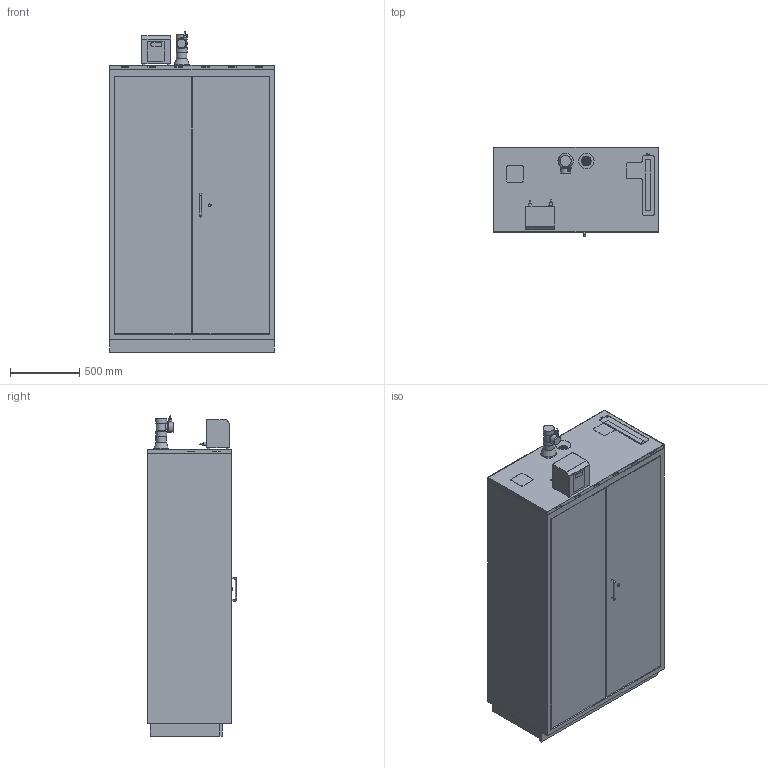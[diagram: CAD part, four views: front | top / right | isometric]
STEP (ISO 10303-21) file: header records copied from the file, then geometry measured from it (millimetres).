
FILE_DESCRIPTION(/* description */ ('Unknown'),/* implementation_level */ '2;1');
FILE_NAME(/* name */ 'TAP CLASSIC XL_D00108794',/* time_stamp */ '2020-11-17T09:29:39+01:00',/* author */ ('Unknown'),/* organization */ ('Unknown'),/* preprocessor_version */ 'ST-DEVELOPER v16.7',/* originating_system */ 'Solid Edge',/* authorisation */ 'Unknown');
FILE_SCHEMA (('AUTOMOTIVE_DESIGN {1 0 10303 214 3 1 1}'));
Length unit declared in the file: millimetre
Products named in the file (1): TAP CLASSIC XL_D00108794
Bounding box: 1194 x 647 x 2317.41 mm (x, y, z)
Volume: 1439227970.8 mm3; surface area: 11844898.9 mm2
Topology: 2 solids, 2 shells, 318 faces, 821 edges, 536 vertices
Faces by surface type: plane 218, cylinder 81, sphere 8, torus 4, cone 4, bspline 3
Full cylindrical faces by diameter (mm): 6 x3, 6.2 x3, 12 x3, 18 x5, 20 x1, 22 x3, 45 x1, 70 x1, 72 x1, 75 x1, 80 x3, 109.5 x1, 112 x2
Entity records: 11701 total; most frequent: CARTESIAN_POINT 1726, DIRECTION 1555, ORIENTED_EDGE 1524, EDGE_CURVE 762, LINE 589, VECTOR 589, VERTEX_POINT 519, AXIS2_PLACEMENT_3D 483
